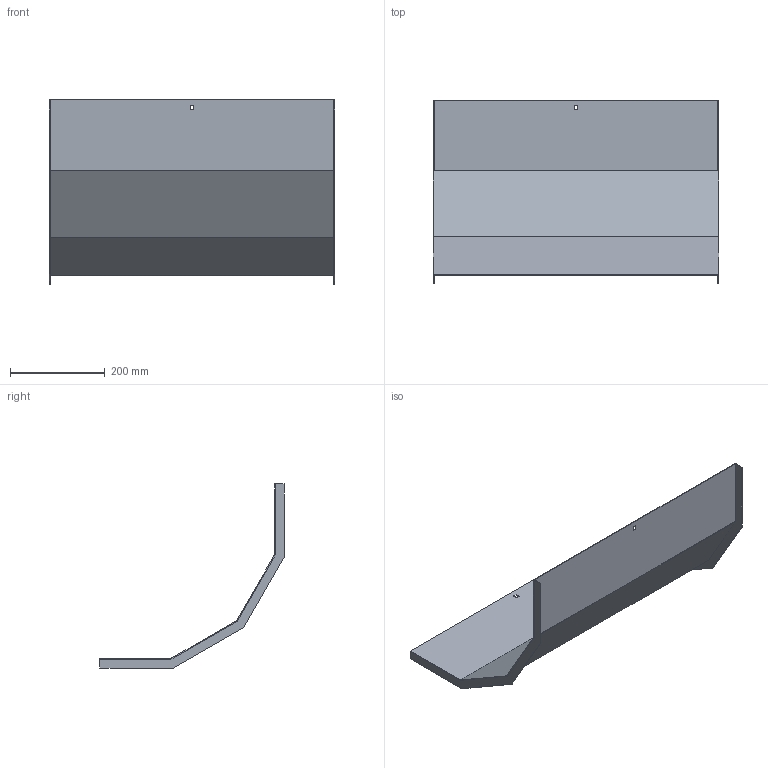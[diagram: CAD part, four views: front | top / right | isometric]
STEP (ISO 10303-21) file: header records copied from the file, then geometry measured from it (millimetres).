
FILE_DESCRIPTION (( 'STEP AP214' ), '1' );
FILE_NAME ('A2X30N3R600X.step', '2025-04-02T08:34:24', ( '' ), ( '' ), 'SwSTEP 2.0', 'SolidWorks 2023', '' );
FILE_SCHEMA (( 'AUTOMOTIVE_DESIGN' ));
Length unit declared in the file: millimetre
Products named in the file (1): A2X30N3R600X
Bounding box: 603 x 388.95 x 388.95 mm (x, y, z)
Volume: 597458.3 mm3; surface area: 800578.1 mm2
Topology: 1 solids, 1 shells, 30 faces, 84 edges, 56 vertices
Faces by surface type: plane 30
Entity records: 979 total; most frequent: CARTESIAN_POINT 171, ORIENTED_EDGE 168, DIRECTION 146, VECTOR 84, EDGE_CURVE 84, LINE 84, VERTEX_POINT 56, EDGE_LOOP 34
